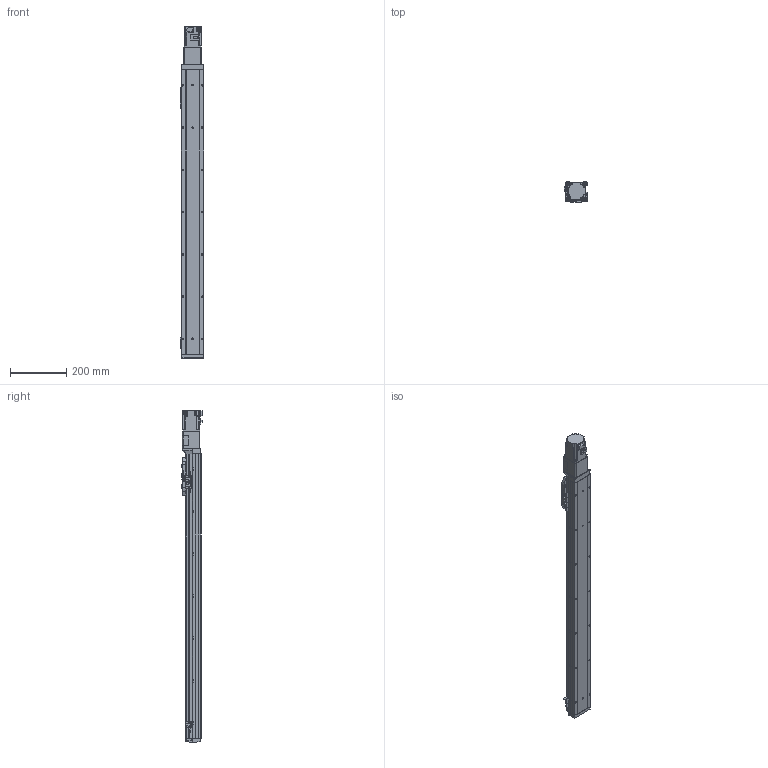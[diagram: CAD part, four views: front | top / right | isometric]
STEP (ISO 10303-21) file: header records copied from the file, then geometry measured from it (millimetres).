
FILE_DESCRIPTION (( 'STEP AP214' ), '1' );
FILE_NAME ('GSH8-850-BC-M20-1.step', '2025-01-07T06:04:31', ( '' ), ( '' ), 'SwSTEP 2.0', 'SolidWorks 2012', '' );
FILE_SCHEMA (( 'AUTOMOTIVE_DESIGN' ));
Length unit declared in the file: millimetre
Products named in the file (4): GSH8-BC-011-850-M20; HG-KR23_200W_Motor; GSH8-850-BC-M20-1; GSH8-GY-004
Assembly tree (3 placements, depth 2):
  GSH8-850-BC-M20-1
    GSH8-BC-011-850-M20
    GSH8-GY-004
    HG-KR23_200W_Motor
Bounding box: 84 x 71.3 x 1177.6 mm (x, y, z)
Volume: 2289581.7 mm3; surface area: 625282.4 mm2
Topology: 3 solids, 7 shells, 1150 faces, 3053 edges, 1968 vertices
Faces by surface type: plane 658, cylinder 400, torus 38, cone 26, bspline 24, sphere 4
Entity records: 45615 total; most frequent: CARTESIAN_POINT 10723, DIRECTION 6185, ORIENTED_EDGE 6090, EDGE_CURVE 3045, AXIS2_PLACEMENT_3D 2078, LINE 2029, VECTOR 2029, VERTEX_POINT 1964
